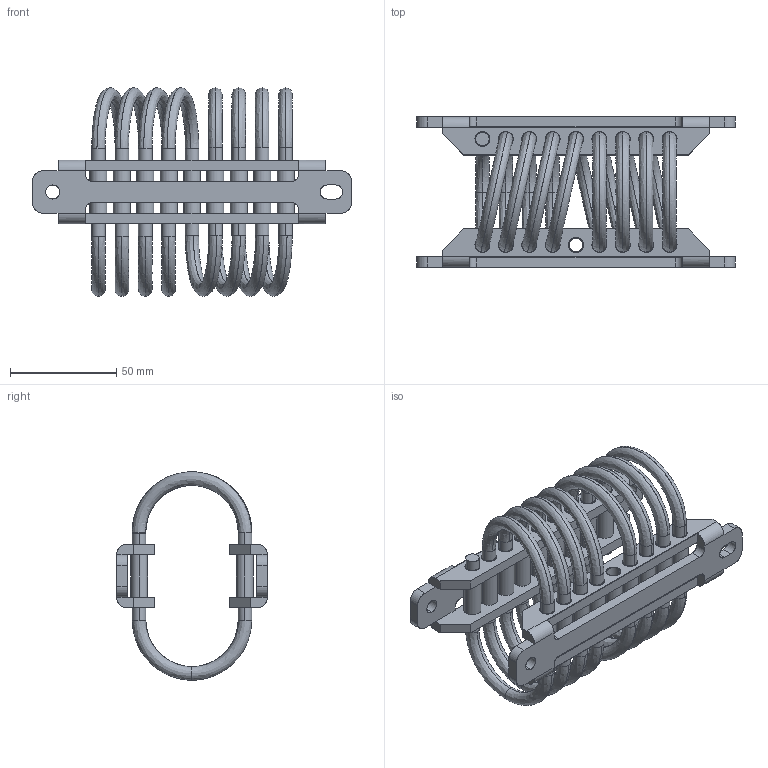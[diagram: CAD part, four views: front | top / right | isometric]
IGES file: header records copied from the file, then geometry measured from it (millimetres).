
Start section: SolidWorks IGES file using analytic representation for surfaces
Bounding box: 150 x 70.8 x 97.99 mm (x, y, z)
Surface area: 76700.7 mm2 (no closed solid volume)
Topology: 0 solids, 0 shells, 252 faces, 6392 edges, 6392 vertices
Faces by surface type: bspline 142, revolution 110
